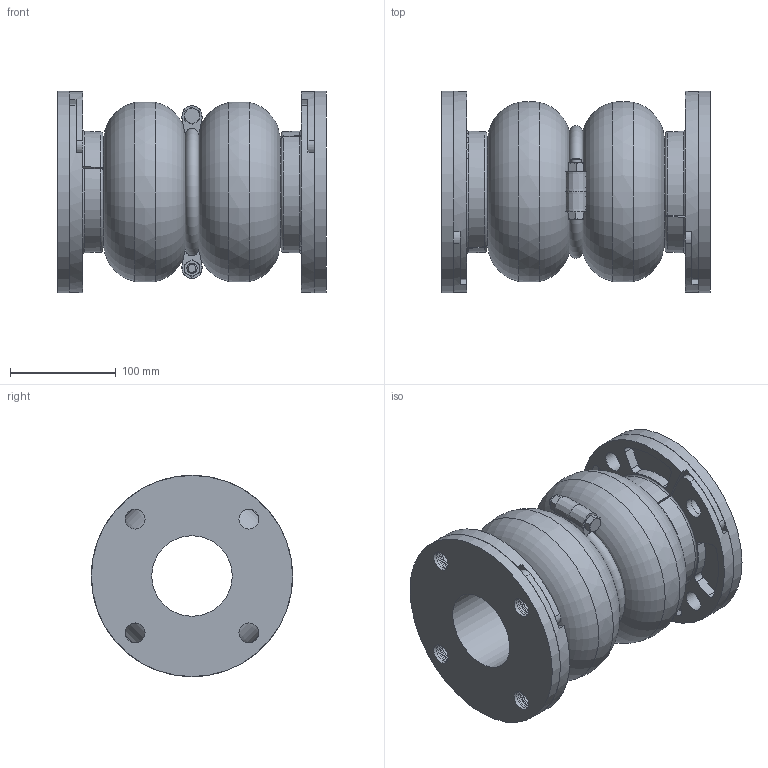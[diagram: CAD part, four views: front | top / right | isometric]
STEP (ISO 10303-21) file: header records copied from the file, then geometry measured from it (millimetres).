
FILE_DESCRIPTION((''),'2;1');
FILE_NAME('C:\2011_Work\Designs\Mercer\Stock Joints\450 Style\452\STEP\Style452 3x10.stp','2013-07-26T17:03:14',('mquog'),(''),'Autodesk Inventor 2011','Autodesk Inventor 2011','');
FILE_SCHEMA(('AUTOMOTIVE_DESIGN { 1 0 10303 214 1 1 1 1 }'));
Length unit declared in the file: inch
Products named in the file (6): Style452 3x10; 3DI450BUR150-1; 3_MBR; Hex Bolt - Inch 3/8-16 UNC - 2; Hex Nut - Inch 3/8 - 16; 452 3x10
Assembly tree (11 placements, depth 2):
  Style452 3x10
    3DI450BUR150-1  x4
    3_MBR  x2
    Hex Bolt - Inch 3/8-16 UNC - 2  x2
    Hex Nut - Inch 3/8 - 16  x2
    452 3x10
Bounding box: 254 x 190.5 x 190.5 mm (x, y, z)
Volume: 2945275 mm3; surface area: 2342166.8 mm2
Topology: 41 solids, 41 shells, 536 faces, 1200 edges, 752 vertices
Faces by surface type: cylinder 192, plane 172, torus 70, bspline 54, cone 48
Full cylindrical faces by diameter (mm): 7.798 x2, 9.525 x2, 9.855 x2, 11.113 x4, 14.275 x2, 19.05 x60, 76.2 x3, 82.55 x6, 88.9 x12, 92.964 x6, 97.028 x6, 100.203 x3, 107.95 x6, 184.15 x12, 190.5 x2
Entity records: 11905 total; most frequent: CARTESIAN_POINT 4432, DIRECTION 1522, ORIENTED_EDGE 1066, EDGE_LOOP 738, AXIS2_PLACEMENT_3D 725, EDGE_CURVE 533, VERTEX_POINT 455, CIRCLE 398
